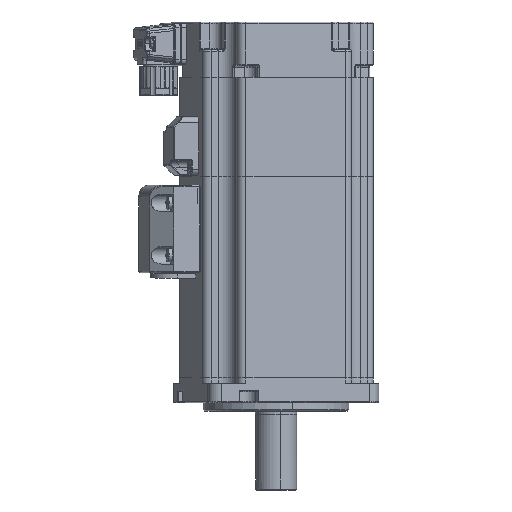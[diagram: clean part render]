
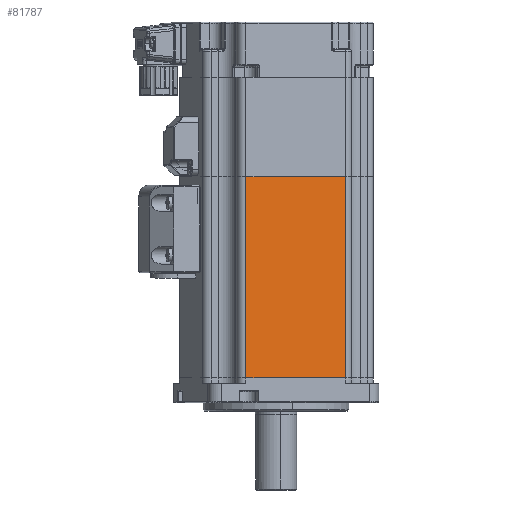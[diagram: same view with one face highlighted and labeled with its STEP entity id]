
A CAD part, left-side view. The second image highlights one B-rep face of the part: STEP entity #81787.
In plain terms, the highlighted planar face has unit normal (-0.974, -0.225, 0) as drawn and (-1, 0, 0) by its records, which use the part's own axes.
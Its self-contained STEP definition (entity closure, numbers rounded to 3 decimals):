
#8919 = CARTESIAN_POINT ( 'NONE',  ( -30., 17.55, 69. ) ) ;
#28557 = CARTESIAN_POINT ( 'NONE',  ( -30., -17.55, 69. ) ) ;
#29230 = DIRECTION ( 'NONE',  ( 0., -1., 0. ) ) ;
#44132 = DIRECTION ( 'NONE',  ( 0., 0., 1. ) ) ;
#47144 = FACE_OUTER_BOUND ( 'NONE', #215755, .T. ) ;
#51441 = VECTOR ( 'NONE', #44132, 1000. ) ;
#57273 = CARTESIAN_POINT ( 'NONE',  ( -30., -17.55, 69. ) ) ;
#58423 = EDGE_CURVE ( 'NONE', #94121, #89930, #208374, .T. ) ;
#60798 = ORIENTED_EDGE ( 'NONE', *, *, #157007, .F. ) ;
#63817 = CARTESIAN_POINT ( 'NONE',  ( -30., -17.55, 0. ) ) ;
#64896 = VECTOR ( 'NONE', #93292, 1000. ) ;
#72952 = CARTESIAN_POINT ( 'NONE',  ( -30., 17.55, 69. ) ) ;
#81532 = DIRECTION ( 'NONE',  ( 1., 0., 0. ) ) ;
#81787 = ADVANCED_FACE ( 'NONE', ( #47144 ), #149588, .F. ) ;
#89930 = VERTEX_POINT ( 'NONE', #100937 ) ;
#90419 = DIRECTION ( 'NONE',  ( 0., -1., 0. ) ) ;
#92595 = ORIENTED_EDGE ( 'NONE', *, *, #58423, .F. ) ;
#93129 = AXIS2_PLACEMENT_3D ( 'NONE', #28557, #81532, #99011 ) ;
#93292 = DIRECTION ( 'NONE',  ( 0., 0., -1. ) ) ;
#93521 = CARTESIAN_POINT ( 'NONE',  ( -30., 17.55, 0. ) ) ;
#94121 = VERTEX_POINT ( 'NONE', #72952 ) ;
#98920 = VECTOR ( 'NONE', #29230, 1000. ) ;
#99011 = DIRECTION ( 'NONE',  ( 0., 0., -1. ) ) ;
#100937 = CARTESIAN_POINT ( 'NONE',  ( -30., -17.55, 69. ) ) ;
#122344 = LINE ( 'NONE', #57273, #64896 ) ;
#128912 = EDGE_CURVE ( 'NONE', #163379, #94121, #212933, .T. ) ;
#144563 = EDGE_CURVE ( 'NONE', #163379, #223799, #215748, .T. ) ;
#149588 = PLANE ( 'NONE',  #93129 ) ;
#153998 = ORIENTED_EDGE ( 'NONE', *, *, #144563, .T. ) ;
#157007 = EDGE_CURVE ( 'NONE', #89930, #223799, #122344, .T. ) ;
#159489 = ORIENTED_EDGE ( 'NONE', *, *, #128912, .F. ) ;
#163379 = VERTEX_POINT ( 'NONE', #93521 ) ;
#169384 = CARTESIAN_POINT ( 'NONE',  ( -30., -25.05, 69. ) ) ;
#180417 = VECTOR ( 'NONE', #90419, 1000. ) ;
#195181 = CARTESIAN_POINT ( 'NONE',  ( -30., -25.05, 0. ) ) ;
#208374 = LINE ( 'NONE', #169384, #98920 ) ;
#212933 = LINE ( 'NONE', #8919, #51441 ) ;
#215748 = LINE ( 'NONE', #195181, #180417 ) ;
#215755 = EDGE_LOOP ( 'NONE', ( #92595, #159489, #153998, #60798 ) ) ;
#223799 = VERTEX_POINT ( 'NONE', #63817 ) ;
